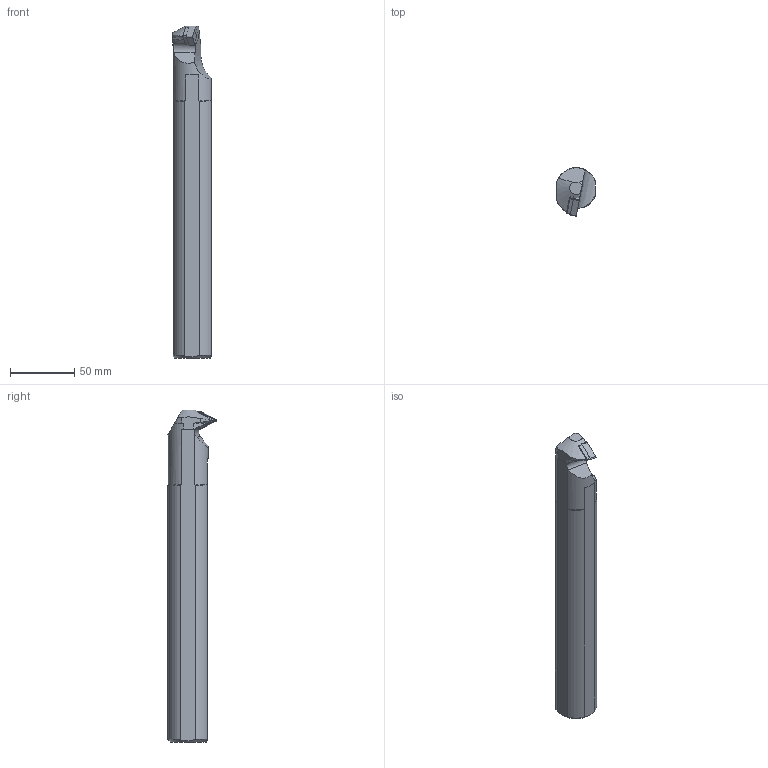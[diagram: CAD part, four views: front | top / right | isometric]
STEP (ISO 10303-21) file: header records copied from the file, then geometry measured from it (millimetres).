
FILE_DESCRIPTION(/* description */ (''),/* implementation_level */ '2;1');
FILE_NAME(/* name */ 'A32S-PDSNR-15-3N-HAAS_210825.stp',/* time_stamp */ '2021-09-30T17:05:33+09:00',/* author */ (''),/* organization */ (''),/* preprocessor_version */ 'ST-DEVELOPER v15',/* originating_system */ 'SIEMENS PLM Software NX 8.5',/* authorisation */ '');
FILE_SCHEMA (('AP203_CONFIGURATION_CONTROLLED_3D_DESIGN_OF_MECHANICAL_PARTS_AND_ASSEMBLIES_MIM_LF { 1 0 10303 403 2 1 2}'));
Length unit declared in the file: millimetre
Products named in the file (1): userF2984F2A8mc1
Bounding box: 30.07 x 37.99 x 258 mm (x, y, z)
Volume: 188257.5 mm3; surface area: 27341.8 mm2
Topology: 3 solids, 3 shells, 64 faces, 161 edges, 103 vertices
Faces by surface type: plane 27, cylinder 19, cone 16, bspline 1, extrusion 1
Full cylindrical faces by diameter (mm): 5.16 x1, 6.9 x1
Entity records: 2076 total; most frequent: CARTESIAN_POINT 503, ORIENTED_EDGE 304, DIRECTION 299, EDGE_CURVE 152, AXIS2_PLACEMENT_3D 113, VERTEX_POINT 101, EDGE_LOOP 75, VECTOR 73
